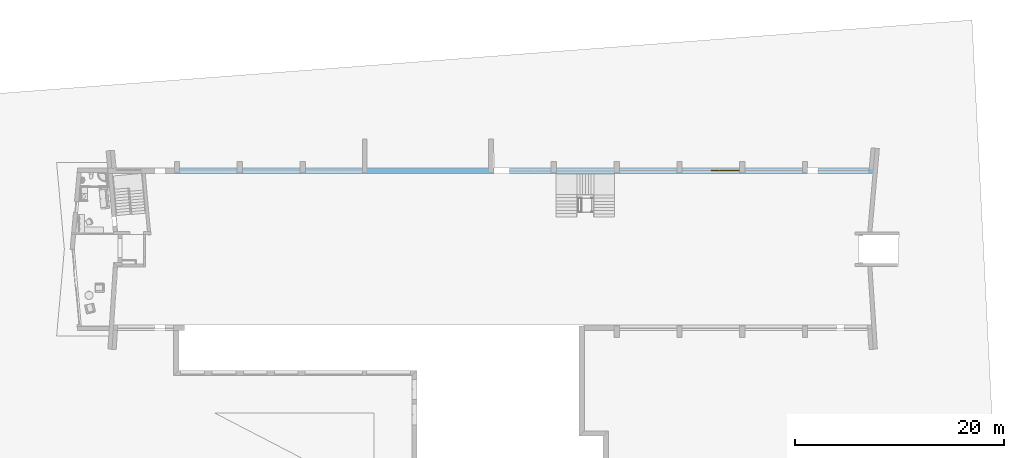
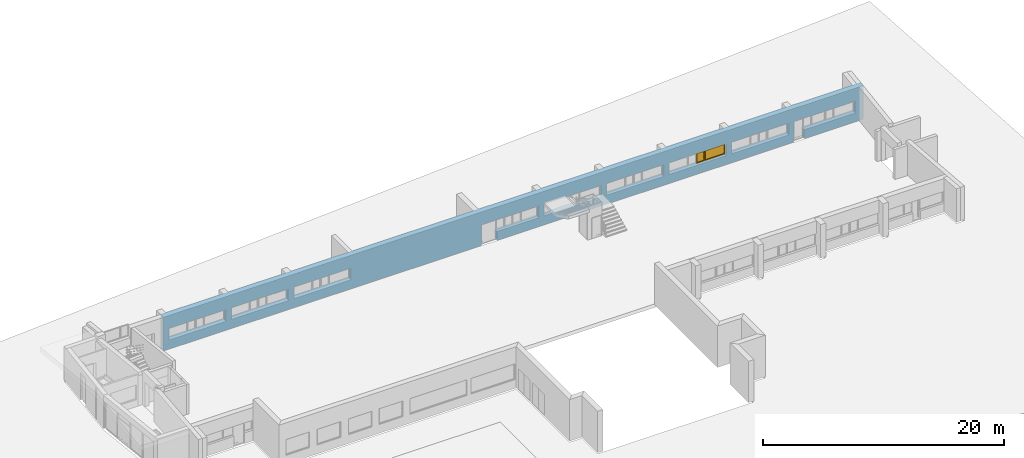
# One storey, part 22 of 36: 1 window, 20 openings, plus 1 element that does not belong to this part.
"""IFC2X3 building model written with IfcOpenShell, lengths in millimetres."""

from ifc_helpers import new_model, entity, si_unit, converted_unit, money_unit, direction, frame, origin_with_axes, place, context, subcontext, project, spatial, polyline, outline, extrude, open_shell, faceted_brep, surface_model, material, material_list, layer, layer_set, layer_usage, type_object, element, fill, save


model = new_model("IFC2X3")

# Units and contexts
model_context = context("Model", 3, precision=1e-05, world=origin_with_axes(), true_north=direction((0.0, 1.0)))
body_context = subcontext(model_context, "Body", "Model", "MODEL_VIEW")
ifc_project = project(units=[si_unit("LENGTHUNIT", "METRE", prefix="MILLI"), si_unit("AREAUNIT", "SQUARE_METRE"), si_unit("VOLUMEUNIT", "CUBIC_METRE"), converted_unit("PLANEANGLEUNIT", "DEGREE", entity("IfcPlaneAngleMeasure", 0.0174532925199), si_unit("PLANEANGLEUNIT", "RADIAN"), dimensions=[0, 0, 0, 0, 0, 0, 0]), si_unit("SOLIDANGLEUNIT", "STERADIAN"), money_unit("USD"), converted_unit("TIMEUNIT", "Year", entity("IfcTimeMeasure", 31556926.0), si_unit("TIMEUNIT", "SECOND"), dimensions=[0, 0, 0, 0, 0, 0, 0]), si_unit("MASSUNIT", "GRAM"), si_unit("THERMODYNAMICTEMPERATUREUNIT", "DEGREE_CELSIUS"), si_unit("LUMINOUSINTENSITYUNIT", "LUMEN")], contexts=[model_context])

# Site, building, storey
site_placement = place(None, origin_with_axes())
site = spatial("IfcSite", under=ifc_project, at=site_placement, Name="Site", CompositionType="ELEMENT")
building_placement = place(site_placement, origin_with_axes())
building = spatial("IfcBuilding", under=site, at=building_placement, Name="Building", CompositionType="ELEMENT")
storey_placement = place(building_placement, frame((0.0, 0.0, -3400.0), z_axis=(0.0, 0.0, 1.0), x_axis=(1.0, 0.0, 0.0)))
storey = spatial("IfcBuildingStorey", under=building, at=storey_placement, Name="1KORRUS", CompositionType="ELEMENT", Elevation=-3400.0)

# Wall, openings, window
ifc_material_1 = material(Name="Olemasolevad seinad tellis, uus viimistlus")
ifc_layer = layer(ifc_material_1, 500.0, ventilated="UNKNOWN")
ifc_layer_set = layer_set([ifc_layer], Name="Olemasolevad seinad tellis, uus viimistlus 500")
ifc_layer_usage = layer_usage(ifc_layer_set, "AXIS2", "POSITIVE", -100.0)
wall_type = type_object("IfcWallType", Name="Olemasolevad seinad tellis, uus viimistlus 500", PredefinedType="NOTDEFINED")
wall_placement = place(storey_placement, frame((-48393.8274049, -5039.6041088, 0.0), z_axis=(0.0, 0.0, 1.0), x_axis=(1.0, 0.0, 0.0)))
wall = element("IfcWallStandardCase", 1, at=wall_placement, inside=storey, type_object=wall_type, material=ifc_layer_usage, Name="VS1", ObjectType="VS1", context=body_context, shape_type="SweptSolid", body=[
    extrude(outline(polyline([(0.0, -100.0), (67149.8194303, -100.0), (67149.8194303, 400.0), (0.0, 400.0), (0.0, -100.0)])), origin_with_axes(), (0.0, 0.0, 1.0), 3400.0),
])
opening_1_placement = place(wall_placement, frame((1878.53070154, 0.0, 900.0), z_axis=(0.0, 0.0, 1.0), x_axis=(1.0, 0.0, 0.0)))
element("IfcOpeningElement", 2, at=opening_1_placement, cuts=wall, Name="Olemasolevad aknad jäävad", context=body_context, shape_type="SweptSolid", body=[
    extrude(outline(polyline([(-1375.0, 1200.0), (-1375.0, 0.0), (1375.0, 0.0), (1375.0, 1200.0), (-1375.0, 1200.0)])), frame((0.0, 250.0, 0.0), z_axis=(0.0, -1.0, 0.0), x_axis=(1.0, 0.0, 0.0)), (0.0, 0.0, 1.0), 850.0),
    extrude(outline(polyline([(-1375.0, 0.0), (-1375.0, -1200.0), (1375.0, -1200.0), (1375.0, 0.0), (-1375.0, 0.0)])), frame((0.0, 250.0, 0.0), z_axis=(0.0, 1.0, 0.0), x_axis=(1.0, 0.0, 0.0)), (0.0, 0.0, 1.0), 650.0),
])
opening_2_placement = place(wall_placement, frame((7878.53070154, 0.0, 900.0), z_axis=(0.0, 0.0, 1.0), x_axis=(1.0, 0.0, 0.0)))
element("IfcOpeningElement", 3, at=opening_2_placement, cuts=wall, Name="Olemasolevad aknad jäävad", context=body_context, shape_type="SweptSolid", body=[
    extrude(outline(polyline([(-1375.0, 1200.0), (-1375.0, 0.0), (1375.0, 0.0), (1375.0, 1200.0), (-1375.0, 1200.0)])), frame((0.0, 250.0, 0.0), z_axis=(0.0, -1.0, 0.0), x_axis=(1.0, 0.0, 0.0)), (0.0, 0.0, 1.0), 850.0),
    extrude(outline(polyline([(-1375.0, 0.0), (-1375.0, -1200.0), (1375.0, -1200.0), (1375.0, 0.0), (-1375.0, 0.0)])), frame((0.0, 250.0, 0.0), z_axis=(0.0, 1.0, 0.0), x_axis=(1.0, 0.0, 0.0)), (0.0, 0.0, 1.0), 650.0),
])
opening_3_placement = place(wall_placement, frame((13878.5307015, 0.0, 900.0), z_axis=(0.0, 0.0, 1.0), x_axis=(1.0, 0.0, 0.0)))
element("IfcOpeningElement", 4, at=opening_3_placement, cuts=wall, Name="Olemasolevad aknad jäävad", context=body_context, shape_type="SweptSolid", body=[
    extrude(outline(polyline([(-1375.0, 1200.0), (-1375.0, 0.0), (1375.0, 0.0), (1375.0, 1200.0), (-1375.0, 1200.0)])), frame((0.0, 250.0, 0.0), z_axis=(0.0, -1.0, 0.0), x_axis=(1.0, 0.0, 0.0)), (0.0, 0.0, 1.0), 850.0),
    extrude(outline(polyline([(-1375.0, 0.0), (-1375.0, -1200.0), (1375.0, -1200.0), (1375.0, 0.0), (-1375.0, 0.0)])), frame((0.0, 250.0, 0.0), z_axis=(0.0, 1.0, 0.0), x_axis=(1.0, 0.0, 0.0)), (0.0, 0.0, 1.0), 650.0),
])
opening_4_placement = place(wall_placement, frame((4628.53070154, 0.0, 900.0), z_axis=(0.0, 0.0, 1.0), x_axis=(1.0, 0.0, 0.0)))
element("IfcOpeningElement", 5, at=opening_4_placement, cuts=wall, Name="Olemasolevad aknad jäävad", context=body_context, shape_type="SweptSolid", body=[
    extrude(outline(polyline([(1375.0, 1200.0), (-1375.0, 1200.0), (-1375.0, 0.0), (1375.0, 0.0), (1375.0, 1200.0)])), frame((0.0, 250.0, 0.0), z_axis=(0.0, -1.0, 0.0), x_axis=(1.0, 0.0, 0.0)), (0.0, 0.0, 1.0), 850.0),
    extrude(outline(polyline([(1375.0, 0.0), (-1375.0, 0.0), (-1375.0, -1200.0), (1375.0, -1200.0), (1375.0, 0.0)])), frame((0.0, 250.0, 0.0), z_axis=(0.0, 1.0, 0.0), x_axis=(1.0, 0.0, 0.0)), (0.0, 0.0, 1.0), 650.0),
])
opening_5_placement = place(wall_placement, frame((10628.5307015, 0.0, 900.0), z_axis=(0.0, 0.0, 1.0), x_axis=(1.0, 0.0, 0.0)))
element("IfcOpeningElement", 6, at=opening_5_placement, cuts=wall, Name="Olemasolevad aknad jäävad", context=body_context, shape_type="SweptSolid", body=[
    extrude(outline(polyline([(1375.0, 1200.0), (-1375.0, 1200.0), (-1375.0, 0.0), (1375.0, 0.0), (1375.0, 1200.0)])), frame((0.0, 250.0, 0.0), z_axis=(0.0, -1.0, 0.0), x_axis=(1.0, 0.0, 0.0)), (0.0, 0.0, 1.0), 850.0),
    extrude(outline(polyline([(1375.0, 0.0), (-1375.0, 0.0), (-1375.0, -1200.0), (1375.0, -1200.0), (1375.0, 0.0)])), frame((0.0, 250.0, 0.0), z_axis=(0.0, 1.0, 0.0), x_axis=(1.0, 0.0, 0.0)), (0.0, 0.0, 1.0), 650.0),
])
opening_6_placement = place(wall_placement, frame((16616.9651775, 0.0, 900.0), z_axis=(0.0, 0.0, 1.0), x_axis=(1.0, 0.0, 0.0)))
element("IfcOpeningElement", 7, at=opening_6_placement, cuts=wall, Name="Olemasolevad aknad jäävad", context=body_context, shape_type="SweptSolid", body=[
    extrude(outline(polyline([(1375.0, 1200.0), (-1375.0, 1200.0), (-1375.0, 0.0), (1375.0, 0.0), (1375.0, 1200.0)])), frame((0.0, 250.0, 0.0), z_axis=(0.0, -1.0, 0.0), x_axis=(1.0, 0.0, 0.0)), (0.0, 0.0, 1.0), 850.0),
    extrude(outline(polyline([(1375.0, 0.0), (-1375.0, 0.0), (-1375.0, -1200.0), (1375.0, -1200.0), (1375.0, 0.0)])), frame((0.0, 250.0, 0.0), z_axis=(0.0, 1.0, 0.0), x_axis=(1.0, 0.0, 0.0)), (0.0, 0.0, 1.0), 650.0),
])
opening_7_placement = place(wall_placement, frame((34803.5307015, 0.0, 900.0), z_axis=(0.0, 0.0, 1.0), x_axis=(1.0, 0.0, 0.0)))
element("IfcOpeningElement", 8, at=opening_7_placement, cuts=wall, Name="Olemasolevad aknad jäävad", context=body_context, shape_type="SweptSolid", body=[
    extrude(outline(polyline([(1200.0, 0.0), (-1200.0, 0.0), (-1200.0, -1200.0), (1200.0, -1200.0), (1200.0, 0.0)])), frame((0.0, 100.0, 0.0), z_axis=(0.0, 1.0, 0.0), x_axis=(1.0, 0.0, 0.0)), (0.0, 0.0, 1.0), 800.0),
    extrude(outline(polyline([(1200.0, 1200.0), (-1200.0, 1200.0), (-1200.0, 0.0), (1200.0, 0.0), (1200.0, 1200.0)])), frame((0.0, 100.0, 0.0), z_axis=(0.0, -1.0, 0.0), x_axis=(1.0, 0.0, 0.0)), (0.0, 0.0, 1.0), 700.0),
])
opening_8_placement = place(wall_placement, frame((40625.1633636, 0.0, 900.0), z_axis=(0.0, 0.0, 1.0), x_axis=(1.0, 0.0, 0.0)))
element("IfcOpeningElement", 9, at=opening_8_placement, cuts=wall, Name="Olemasolevad aknad jäävad", context=body_context, shape_type="SweptSolid", body=[
    extrude(outline(polyline([(1400.0, 0.0), (-1400.0, 0.0), (-1400.0, -1200.0), (1400.0, -1200.0), (1400.0, 0.0)])), frame((0.0, 100.0, 0.0), z_axis=(0.0, 1.0, 0.0), x_axis=(1.0, 0.0, 0.0)), (0.0, 0.0, 1.0), 800.0),
    extrude(outline(polyline([(1400.0, 1200.0), (-1400.0, 1200.0), (-1400.0, 0.0), (1400.0, 0.0), (1400.0, 1200.0)])), frame((0.0, 100.0, 0.0), z_axis=(0.0, -1.0, 0.0), x_axis=(1.0, 0.0, 0.0)), (0.0, 0.0, 1.0), 700.0),
])
opening_9_placement = place(wall_placement, frame((37871.3218818, 0.0, 900.0), z_axis=(0.0, 0.0, 1.0), x_axis=(1.0, 0.0, 0.0)))
element("IfcOpeningElement", 10, at=opening_9_placement, cuts=wall, Name="Olemasolevad aknad jäävad", context=body_context, shape_type="SweptSolid", body=[
    extrude(outline(polyline([(-1367.791, 0.0), (-1367.791, -1200.0), (1367.791, -1200.0), (1367.791, 0.0), (-1367.791, 0.0)])), frame((0.0, 150.0, 0.0), z_axis=(0.0, 1.0, 0.0), x_axis=(1.0, 0.0, 0.0)), (0.0, 0.0, 1.0), 750.0),
    extrude(outline(polyline([(-1367.791, 1200.0), (-1367.791, 0.0), (1367.791, 0.0), (1367.791, 1200.0), (-1367.791, 1200.0)])), frame((0.0, 150.0, 0.0), z_axis=(0.0, -1.0, 0.0), x_axis=(1.0, 0.0, 0.0)), (0.0, 0.0, 1.0), 750.0),
])
opening_10_placement = place(wall_placement, frame((46628.5307015, 0.0, 900.0), z_axis=(0.0, 0.0, 1.0), x_axis=(1.0, 0.0, 0.0)))
element("IfcOpeningElement", 11, at=opening_10_placement, cuts=wall, Name="Olemasolevad aknad jäävad", context=body_context, shape_type="SweptSolid", body=[
    extrude(outline(polyline([(1375.0, 1200.0), (-1375.0, 1200.0), (-1375.0, 0.0), (1375.0, 0.0), (1375.0, 1200.0)])), frame((0.0, 150.0, 0.0), z_axis=(0.0, -1.0, 0.0), x_axis=(1.0, 0.0, 0.0)), (0.0, 0.0, 1.0), 750.0),
    extrude(outline(polyline([(1375.0, 0.0), (-1375.0, 0.0), (-1375.0, -1200.0), (1375.0, -1200.0), (1375.0, 0.0)])), frame((0.0, 150.0, 0.0), z_axis=(0.0, 1.0, 0.0), x_axis=(1.0, 0.0, 0.0)), (0.0, 0.0, 1.0), 750.0),
])
opening_11_placement = place(wall_placement, frame((43878.5307015, 0.0, 900.0), z_axis=(0.0, 0.0, 1.0), x_axis=(1.0, 0.0, 0.0)))
element("IfcOpeningElement", 12, at=opening_11_placement, cuts=wall, Name="Olemasolevad aknad jäävad", context=body_context, shape_type="SweptSolid", body=[
    extrude(outline(polyline([(-1375.0, 1200.0), (-1375.0, 0.0), (1375.0, 0.0), (1375.0, 1200.0), (-1375.0, 1200.0)])), frame((0.0, 200.0, 0.0), z_axis=(0.0, -1.0, 0.0), x_axis=(1.0, 0.0, 0.0)), (0.0, 0.0, 1.0), 800.0),
    extrude(outline(polyline([(-1375.0, 0.0), (-1375.0, -1200.0), (1375.0, -1200.0), (1375.0, 0.0), (-1375.0, 0.0)])), frame((0.0, 200.0, 0.0), z_axis=(0.0, 1.0, 0.0), x_axis=(1.0, 0.0, 0.0)), (0.0, 0.0, 1.0), 700.0),
])
opening_12_placement = place(wall_placement, frame((52635.3834465, 0.0, 900.0), z_axis=(0.0, 0.0, 1.0), x_axis=(1.0, 0.0, 0.0)))
opening_12 = element("IfcOpeningElement", 13, at=opening_12_placement, cuts=wall, Name="Olemasolevad aknad jäävad", context=body_context, shape_type="SweptSolid", body=[
    extrude(outline(polyline([(1376.809, 1200.0), (-1376.809, 1200.0), (-1376.809, 0.0), (1376.809, 0.0), (1376.809, 1200.0)])), frame((0.0, 150.0, 0.0), z_axis=(0.0, -1.0, 0.0), x_axis=(1.0, 0.0, 0.0)), (0.0, 0.0, 1.0), 750.0),
    extrude(outline(polyline([(1376.809, 0.0), (-1376.809, 0.0), (-1376.809, -1200.0), (1376.809, -1200.0), (1376.809, 0.0)])), frame((0.0, 150.0, 0.0), z_axis=(0.0, 1.0, 0.0), x_axis=(1.0, 0.0, 0.0)), (0.0, 0.0, 1.0), 750.0),
])
opening_13_placement = place(wall_placement, frame((49883.9987013, 0.0, 900.0), z_axis=(0.0, 0.0, 1.0), x_axis=(1.0, 0.0, 0.0)))
element("IfcOpeningElement", 14, at=opening_13_placement, cuts=wall, Name="Olemasolevad aknad jäävad", context=body_context, shape_type="SweptSolid", body=[
    extrude(outline(polyline([(-1375.0, 1200.0), (-1375.0, 0.0), (1375.0, 0.0), (1375.0, 1200.0), (-1375.0, 1200.0)])), frame((0.0, 200.0, 0.0), z_axis=(0.0, -1.0, 0.0), x_axis=(1.0, 0.0, 0.0)), (0.0, 0.0, 1.0), 800.0),
    extrude(outline(polyline([(-1375.0, 0.0), (-1375.0, -1200.0), (1375.0, -1200.0), (1375.0, 0.0), (-1375.0, 0.0)])), frame((0.0, 200.0, 0.0), z_axis=(0.0, 1.0, 0.0), x_axis=(1.0, 0.0, 0.0)), (0.0, 0.0, 1.0), 700.0),
])
opening_14_placement = place(wall_placement, frame((58631.8843372, 0.0, 900.0), z_axis=(0.0, 0.0, 1.0), x_axis=(1.0, 0.0, 0.0)))
element("IfcOpeningElement", 15, at=opening_14_placement, cuts=wall, Name="Olemasolevad aknad jäävad", context=body_context, shape_type="SweptSolid", body=[
    extrude(outline(polyline([(1371.646, 1200.0), (-1371.646, 1200.0), (-1371.646, 0.0), (1371.646, 0.0), (1371.646, 1200.0)])), frame((0.0, 150.0, 0.0), z_axis=(0.0, -1.0, 0.0), x_axis=(1.0, 0.0, 0.0)), (0.0, 0.0, 1.0), 750.0),
    extrude(outline(polyline([(1371.646, 0.0), (-1371.646, 0.0), (-1371.646, -1200.0), (1371.646, -1200.0), (1371.646, 0.0)])), frame((0.0, 150.0, 0.0), z_axis=(0.0, 1.0, 0.0), x_axis=(1.0, 0.0, 0.0)), (0.0, 0.0, 1.0), 750.0),
])
opening_15_placement = place(wall_placement, frame((55886.6217615, 0.0, 900.0), z_axis=(0.0, 0.0, 1.0), x_axis=(1.0, 0.0, 0.0)))
element("IfcOpeningElement", 16, at=opening_15_placement, cuts=wall, Name="Olemasolevad aknad jäävad", context=body_context, shape_type="SweptSolid", body=[
    extrude(outline(polyline([(-1375.0, 1200.0), (-1375.0, 0.0), (1375.0, 0.0), (1375.0, 1200.0), (-1375.0, 1200.0)])), frame((0.0, 200.0, 0.0), z_axis=(0.0, -1.0, 0.0), x_axis=(1.0, 0.0, 0.0)), (0.0, 0.0, 1.0), 800.0),
    extrude(outline(polyline([(-1375.0, 0.0), (-1375.0, -1200.0), (1375.0, -1200.0), (1375.0, 0.0), (-1375.0, 0.0)])), frame((0.0, 200.0, 0.0), z_axis=(0.0, 1.0, 0.0), x_axis=(1.0, 0.0, 0.0)), (0.0, 0.0, 1.0), 700.0),
])
opening_16_placement = place(wall_placement, frame((64995.2517085, 0.0, 900.0), z_axis=(0.0, 0.0, 1.0), x_axis=(1.0, 0.0, 0.0)))
element("IfcOpeningElement", 17, at=opening_16_placement, cuts=wall, Name="Olemasolevad aknad jäävad", context=body_context, shape_type="SweptSolid", body=[
    extrude(outline(polyline([(1375.0, 1200.0), (-1375.0, 1200.0), (-1375.0, 0.0), (1375.0, 0.0), (1375.0, 1200.0)])), frame((0.0, 150.0, 0.0), z_axis=(0.0, -1.0, 0.0), x_axis=(1.0, 0.0, 0.0)), (0.0, 0.0, 1.0), 750.0),
    extrude(outline(polyline([(1375.0, 0.0), (-1375.0, 0.0), (-1375.0, -1200.0), (1375.0, -1200.0), (1375.0, 0.0)])), frame((0.0, 150.0, 0.0), z_axis=(0.0, 1.0, 0.0), x_axis=(1.0, 0.0, 0.0)), (0.0, 0.0, 1.0), 750.0),
])
opening_17_placement = place(wall_placement, frame((32810.8244307, 0.0, 900.0), z_axis=(0.0, 0.0, 1.0), x_axis=(1.0, 0.0, 0.0)))
element("IfcOpeningElement", 18, at=opening_17_placement, cuts=wall, Name="Olemasolevad aknad jäävad", context=body_context, shape_type="SweptSolid", body=[
    extrude(outline(polyline([(792.706, 0.0), (-792.706, 0.0), (-792.706, -1200.0), (792.706, -1200.0), (792.706, 0.0)])), frame((0.0, 100.0, 0.0), z_axis=(0.0, 1.0, 0.0), x_axis=(1.0, 0.0, 0.0)), (0.0, 0.0, 1.0), 800.0),
    extrude(outline(polyline([(792.706, 1200.0), (-792.706, 1200.0), (-792.706, 0.0), (792.706, 0.0), (792.706, 1200.0)])), frame((0.0, 100.0, 0.0), z_axis=(0.0, -1.0, 0.0), x_axis=(1.0, 0.0, 0.0)), (0.0, 0.0, 1.0), 700.0),
])
opening_18_placement = place(wall_placement, frame((62561.891205, 0.0, 900.0), z_axis=(0.0, 0.0, 1.0), x_axis=(1.0, 0.0, 0.0)))
element("IfcOpeningElement", 19, at=opening_18_placement, cuts=wall, Name="Olemasolevad aknad jäävad", context=body_context, shape_type="SweptSolid", body=[
    extrude(outline(polyline([(1058.361, 1200.0), (-1058.361, 1200.0), (-1058.361, 0.0), (1058.361, 0.0), (1058.361, 1200.0)])), frame((0.0, 150.0, 0.0), z_axis=(0.0, -1.0, 0.0), x_axis=(1.0, 0.0, 0.0)), (0.0, 0.0, 1.0), 750.0),
    extrude(outline(polyline([(1058.361, 0.0), (-1058.361, 0.0), (-1058.361, -1200.0), (1058.361, -1200.0), (1058.361, 0.0)])), frame((0.0, 150.0, 0.0), z_axis=(0.0, 1.0, 0.0), x_axis=(1.0, 0.0, 0.0)), (0.0, 0.0, 1.0), 750.0),
])
opening_19_placement = place(wall_placement, frame((61003.5307015, 0.0, -4.66441168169), z_axis=(0.0, 0.0, 1.0), x_axis=(1.0, 0.0, 0.0)))
element("IfcOpeningElement", 20, at=opening_19_placement, cuts=wall, Name="ava", context=body_context, shape_type="SweptSolid", body=[
    extrude(outline(polyline([(-500.0, 2100.0), (-500.0, 0.0), (500.0, 0.0), (500.0, 2100.0), (-500.0, 2100.0)])), frame((0.0, 200.0, 0.0), z_axis=(0.0, 1.0, 0.0), x_axis=(-1.0, 0.0, 0.0)), (0.0, 0.0, -1.0), 800.0),
    extrude(outline(polyline([(-500.0, 0.0), (-500.0, -2100.0), (500.0, -2100.0), (500.0, 0.0), (-500.0, 0.0)])), frame((0.0, 200.0, 0.0), z_axis=(0.0, -1.0, 0.0), x_axis=(-1.0, 0.0, 0.0)), (0.0, 0.0, -1.0), 700.0),
])
opening_20_placement = place(wall_placement, frame((31268.1181599, 0.0, 0.0), z_axis=(0.0, 0.0, 1.0), x_axis=(1.0, 0.0, 0.0)))
element("IfcOpeningElement", 21, at=opening_20_placement, cuts=wall, Name="ava", context=body_context, shape_type="SweptSolid", body=[
    extrude(outline(polyline([(-750.0, 2100.0), (-750.0, 0.0), (750.0, 0.0), (750.0, 2100.0), (-750.0, 2100.0)])), frame((0.0, 200.0, 0.0), z_axis=(0.0, -1.0, 0.0), x_axis=(1.0, 0.0, 0.0)), (0.0, 0.0, 1.0), 800.0),
    extrude(outline(polyline([(-750.0, 0.0), (-750.0, -2100.0), (750.0, -2100.0), (750.0, 0.0), (-750.0, 0.0)])), frame((0.0, 200.0, 0.0), z_axis=(0.0, 1.0, 0.0), x_axis=(1.0, 0.0, 0.0)), (0.0, 0.0, 1.0), 700.0),
])
ifc_material_2 = material(Name="Background")
ifc_material_list = material_list([ifc_material_2])
window_style = type_object("IfcWindowStyle", Name="Double Window 19", ConstructionType="NOTDEFINED", OperationType="DOUBLE_PANEL_VERTICAL", ParameterTakesPrecedence=False, Sizeable=False)
window_placement = place(opening_12_placement, frame((-1376.80925623, 0.0, 0.0), z_axis=(0.0, 0.0, 1.0), x_axis=(1.0, 0.0, 0.0)))
window = element("IfcWindow", 22, at=window_placement, inside=storey, type_object=window_style, material=ifc_material_list, Name="Olemasolevad aknad jäävad", ObjectType="Olemasolevad aknad jäävad", OverallHeight=1200.0, OverallWidth=2753.62, context=body_context, shape_type="SurfaceModel", body=[
    faceted_brep([(2728.619, 200.0, 1150.0), (2728.619, 175.0, 1150.0), (2703.619, 175.0, 1150.0), (2703.619, 150.0, 1150.0), (2753.619, 150.0, 1150.0), (2753.619, 200.0, 1150.0), (2728.619, 200.0, 50.0), (2728.619, 175.0, 50.0), (2703.619, 175.0, 50.0), (2703.619, 150.0, 50.0), (2753.619, 150.0, 50.0), (2753.619, 200.0, 50.0)], [[[0, 1, 2, 3, 4, 5]], [[1, 0, 6, 7]], [[8, 2, 1, 7]], [[2, 8, 9, 3]], [[4, 3, 9, 10]], [[5, 4, 10, 11]], [[6, 0, 5, 11]], [[7, 6, 11, 10, 9, 8]]]),
    faceted_brep([(49.999999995, 175.0, 1150.0), (24.999999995, 175.0, 1150.0), (24.999999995, 200.0, 1150.0), (-4.99911223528e-09, 200.0, 1150.0), (-4.99911223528e-09, 150.0, 1150.0), (49.999999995, 150.0, 1150.0), (49.999999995, 175.0, 50.0), (24.999999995, 175.0, 50.0), (24.999999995, 200.0, 50.0), (-4.99911223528e-09, 200.0, 50.0), (-4.99911223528e-09, 150.0, 50.0), (49.999999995, 150.0, 50.0)], [[[0, 1, 2, 3, 4, 5]], [[1, 0, 6, 7]], [[8, 2, 1, 7]], [[2, 8, 9, 3]], [[9, 10, 4, 3]], [[10, 11, 5, 4]], [[6, 0, 5, 11]], [[7, 6, 11, 10, 9, 8]]]),
    faceted_brep([(849.999999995, 175.0, 1150.0), (824.999999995, 175.0, 1150.0), (824.999999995, 200.0, 1150.0), (774.999999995, 200.0, 1150.0), (774.999999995, 175.0, 1150.0), (749.999999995, 175.0, 1150.0), (749.999999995, 150.0, 1150.0), (849.999999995, 150.0, 1150.0), (849.999999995, 175.0, 50.0), (824.999999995, 175.0, 50.0), (824.999999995, 200.0, 50.0), (774.999999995, 200.0, 50.0), (774.999999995, 175.0, 50.0), (749.999999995, 175.0, 50.0), (749.999999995, 150.0, 50.0), (849.999999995, 150.0, 50.0)], [[[0, 1, 2, 3, 4, 5, 6, 7]], [[1, 0, 8, 9]], [[10, 2, 1, 9]], [[2, 10, 11, 3]], [[4, 3, 11, 12]], [[13, 5, 4, 12]], [[5, 13, 14, 6]], [[14, 15, 7, 6]], [[8, 0, 7, 15]], [[9, 8, 15, 14, 13, 12, 11, 10]]]),
    faceted_brep([(849.999999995, 175.0, 50.0), (824.999999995, 175.0, 50.0), (824.999999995, 200.0, 50.0), (774.999999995, 200.0, 50.0), (774.999999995, 175.0, 50.0), (749.999999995, 175.0, 50.0), (749.999999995, 150.0, 50.0), (849.999999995, 150.0, 50.0), (2703.619, 175.0, 50.0), (2728.619, 175.0, 50.0), (2728.619, 175.0, 25.0), (824.999999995, 175.0, 25.0), (824.999999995, 200.0, 25.0), (2728.619, 200.0, 25.0), (2728.619, 200.0, 50.0), (2753.619, 200.0, 50.0), (2753.619, 200.0, 0.0), (-4.99911223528e-09, 200.0, 0.0), (-4.99911223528e-09, 200.0, 50.0), (24.999999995, 200.0, 50.0), (24.999999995, 200.0, 25.0), (774.999999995, 200.0, 25.0), (774.999999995, 175.0, 25.0), (24.999999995, 175.0, 50.0), (49.999999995, 175.0, 50.0), (24.999999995, 175.0, 25.0), (49.999999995, 150.0, 50.0), (2753.619, 150.0, 50.0), (2703.619, 150.0, 50.0), (-4.99911223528e-09, 150.0, 50.0), (-4.99911223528e-09, 150.0, 0.0), (2753.619, 150.0, 0.0)], [[[0, 1, 2, 3, 4, 5, 6, 7]], [[1, 0, 8, 9, 10, 11]], [[12, 2, 1, 11]], [[13, 14, 15, 16, 17, 18, 19, 20, 21, 3, 2, 12]], [[4, 3, 21, 22]], [[23, 24, 5, 4, 22, 25]], [[5, 24, 26, 6]], [[27, 28, 7, 6, 26, 29, 30, 31]], [[8, 0, 7, 28]], [[9, 8, 28, 27, 15, 14]], [[9, 14, 13, 10]], [[13, 12, 11, 10]], [[15, 27, 31, 16]], [[16, 31, 30, 17]], [[17, 30, 29, 18]], [[24, 23, 19, 18, 29, 26]], [[20, 19, 23, 25]], [[21, 20, 25, 22]]]),
    faceted_brep([(2728.619, 200.0, 1150.0), (2728.619, 200.0, 1175.0), (824.999999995, 200.0, 1175.0), (824.999999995, 200.0, 1150.0), (774.999999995, 200.0, 1150.0), (774.999999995, 200.0, 1175.0), (24.999999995, 200.0, 1175.0), (24.999999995, 200.0, 1150.0), (-4.99911223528e-09, 200.0, 1150.0), (-4.99911223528e-09, 200.0, 1200.0), (2753.619, 200.0, 1200.0), (2753.619, 200.0, 1150.0), (2728.619, 175.0, 1150.0), (2728.619, 175.0, 1175.0), (824.999999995, 175.0, 1175.0), (824.999999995, 175.0, 1150.0), (849.999999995, 175.0, 1150.0), (849.999999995, 150.0, 1150.0), (749.999999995, 150.0, 1150.0), (749.999999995, 175.0, 1150.0), (774.999999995, 175.0, 1150.0), (774.999999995, 175.0, 1175.0), (24.999999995, 175.0, 1175.0), (24.999999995, 175.0, 1150.0), (49.999999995, 175.0, 1150.0), (49.999999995, 150.0, 1150.0), (-4.99911223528e-09, 150.0, 1150.0), (-4.99911223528e-09, 150.0, 1200.0), (2753.619, 150.0, 1200.0), (2753.619, 150.0, 1150.0), (2703.619, 150.0, 1150.0), (2703.619, 175.0, 1150.0)], [[[0, 1, 2, 3, 4, 5, 6, 7, 8, 9, 10, 11]], [[1, 0, 12, 13]], [[2, 1, 13, 14]], [[3, 2, 14, 15]], [[15, 16, 17, 18, 19, 20, 4, 3]], [[5, 4, 20, 21]], [[6, 5, 21, 22]], [[7, 6, 22, 23]], [[23, 24, 25, 26, 8, 7]], [[8, 26, 27, 9]], [[9, 27, 28, 10]], [[10, 28, 29, 11]], [[12, 0, 11, 29, 30, 31]], [[16, 15, 14, 13, 12, 31]], [[16, 31, 30, 17]], [[18, 17, 30, 29, 28, 27, 26, 25]], [[24, 19, 18, 25]], [[24, 23, 22, 21, 20, 19]]]),
    faceted_brep([(2678.619, 175.0, 1125.0), (2728.619, 175.0, 1125.0), (2728.619, 225.0, 1125.0), (2678.619, 225.0, 1125.0), (2678.619, 175.0, 75.0), (2728.619, 175.0, 75.0), (2728.619, 225.0, 75.0), (2678.619, 225.0, 75.0)], [[[0, 1, 2, 3]], [[0, 4, 5, 1]], [[1, 5, 6, 2]], [[3, 2, 6, 7]], [[4, 0, 3, 7]], [[5, 4, 7, 6]]]),
    faceted_brep([(874.999999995, 175.0, 75.0), (824.999999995, 175.0, 75.0), (824.999999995, 225.0, 75.0), (874.999999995, 225.0, 75.0), (874.999999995, 175.0, 1125.0), (824.999999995, 175.0, 1125.0), (824.999999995, 225.0, 1125.0), (874.999999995, 225.0, 1125.0)], [[[0, 1, 2, 3]], [[0, 4, 5, 1]], [[1, 5, 6, 2]], [[3, 2, 6, 7]], [[4, 0, 3, 7]], [[5, 4, 7, 6]]]),
    faceted_brep([(824.999999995, 175.0, 25.0), (824.999999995, 175.0, 75.0), (824.999999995, 225.0, 75.0), (824.999999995, 225.0, 25.0), (2728.619, 175.0, 25.0), (2728.619, 175.0, 75.0), (2678.619, 175.0, 75.0), (874.999999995, 175.0, 75.0), (874.999999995, 225.0, 75.0), (2678.619, 225.0, 75.0), (2728.619, 225.0, 75.0), (2728.619, 225.0, 25.0)], [[[0, 1, 2, 3]], [[0, 4, 5, 6, 7, 1]], [[1, 7, 8, 2]], [[3, 2, 8, 9, 10, 11]], [[4, 0, 3, 11]], [[5, 4, 11, 10]], [[6, 5, 10, 9]], [[7, 6, 9, 8]]]),
    faceted_brep([(2728.619, 175.0, 1175.0), (2728.619, 175.0, 1125.0), (2728.619, 225.0, 1125.0), (2728.619, 225.0, 1175.0), (824.999999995, 175.0, 1175.0), (824.999999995, 175.0, 1125.0), (874.999999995, 175.0, 1125.0), (2678.619, 175.0, 1125.0), (2678.619, 225.0, 1125.0), (874.999999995, 225.0, 1125.0), (824.999999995, 225.0, 1125.0), (824.999999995, 225.0, 1175.0)], [[[0, 1, 2, 3]], [[0, 4, 5, 6, 7, 1]], [[1, 7, 8, 2]], [[3, 2, 8, 9, 10, 11]], [[4, 0, 3, 11]], [[5, 4, 11, 10]], [[6, 5, 10, 9]], [[7, 6, 9, 8]]]),
    surface_model("IfcShellBasedSurfaceModel", [(2678.619, 190.0, 75.0), (2678.619, 190.0, 1125.0), (874.999999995, 190.0, 1125.0), (874.999999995, 190.0, 75.0)], [open_shell([[[0, 1, 2, 3]]])]),
    surface_model("IfcShellBasedSurfaceModel", [(2678.619, 210.0, 75.0), (874.999999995, 210.0, 75.0), (874.999999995, 210.0, 1125.0), (2678.619, 210.0, 1125.0)], [open_shell([[[0, 1, 2, 3]]])]),
    faceted_brep([(724.999999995, 175.0, 1125.0), (774.999999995, 175.0, 1125.0), (774.999999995, 225.0, 1125.0), (724.999999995, 225.0, 1125.0), (724.999999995, 175.0, 75.0), (774.999999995, 175.0, 75.0), (774.999999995, 225.0, 75.0), (724.999999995, 225.0, 75.0)], [[[0, 1, 2, 3]], [[0, 4, 5, 1]], [[1, 5, 6, 2]], [[3, 2, 6, 7]], [[4, 0, 3, 7]], [[5, 4, 7, 6]]]),
    faceted_brep([(74.999999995, 175.0, 75.0), (24.999999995, 175.0, 75.0), (24.999999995, 225.0, 75.0), (74.999999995, 225.0, 75.0), (74.999999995, 175.0, 1125.0), (24.999999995, 175.0, 1125.0), (24.999999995, 225.0, 1125.0), (74.999999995, 225.0, 1125.0)], [[[0, 1, 2, 3]], [[0, 4, 5, 1]], [[1, 5, 6, 2]], [[3, 2, 6, 7]], [[4, 0, 3, 7]], [[5, 4, 7, 6]]]),
    faceted_brep([(24.999999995, 175.0, 25.0), (24.999999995, 175.0, 75.0), (24.999999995, 225.0, 75.0), (24.999999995, 225.0, 25.0), (774.999999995, 175.0, 25.0), (774.999999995, 175.0, 75.0), (724.999999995, 175.0, 75.0), (74.999999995, 175.0, 75.0), (74.999999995, 225.0, 75.0), (724.999999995, 225.0, 75.0), (774.999999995, 225.0, 75.0), (774.999999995, 225.0, 25.0)], [[[0, 1, 2, 3]], [[0, 4, 5, 6, 7, 1]], [[1, 7, 8, 2]], [[3, 2, 8, 9, 10, 11]], [[4, 0, 3, 11]], [[5, 4, 11, 10]], [[6, 5, 10, 9]], [[7, 6, 9, 8]]]),
    faceted_brep([(774.999999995, 175.0, 1175.0), (774.999999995, 175.0, 1125.0), (774.999999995, 225.0, 1125.0), (774.999999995, 225.0, 1175.0), (24.999999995, 175.0, 1175.0), (24.999999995, 175.0, 1125.0), (74.999999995, 175.0, 1125.0), (724.999999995, 175.0, 1125.0), (724.999999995, 225.0, 1125.0), (74.999999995, 225.0, 1125.0), (24.999999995, 225.0, 1125.0), (24.999999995, 225.0, 1175.0)], [[[0, 1, 2, 3]], [[0, 4, 5, 6, 7, 1]], [[1, 7, 8, 2]], [[3, 2, 8, 9, 10, 11]], [[4, 0, 3, 11]], [[5, 4, 11, 10]], [[6, 5, 10, 9]], [[7, 6, 9, 8]]]),
    surface_model("IfcShellBasedSurfaceModel", [(724.999999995, 190.0, 75.0), (724.999999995, 190.0, 1125.0), (74.999999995, 190.0, 1125.0), (74.999999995, 190.0, 75.0)], [open_shell([[[0, 1, 2, 3]]])]),
    surface_model("IfcShellBasedSurfaceModel", [(724.999999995, 210.0, 75.0), (74.999999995, 210.0, 75.0), (74.999999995, 210.0, 1125.0), (724.999999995, 210.0, 1125.0)], [open_shell([[[0, 1, 2, 3]]])]),
])
fill(opening_12, window)

save(model, "model.ifc")
